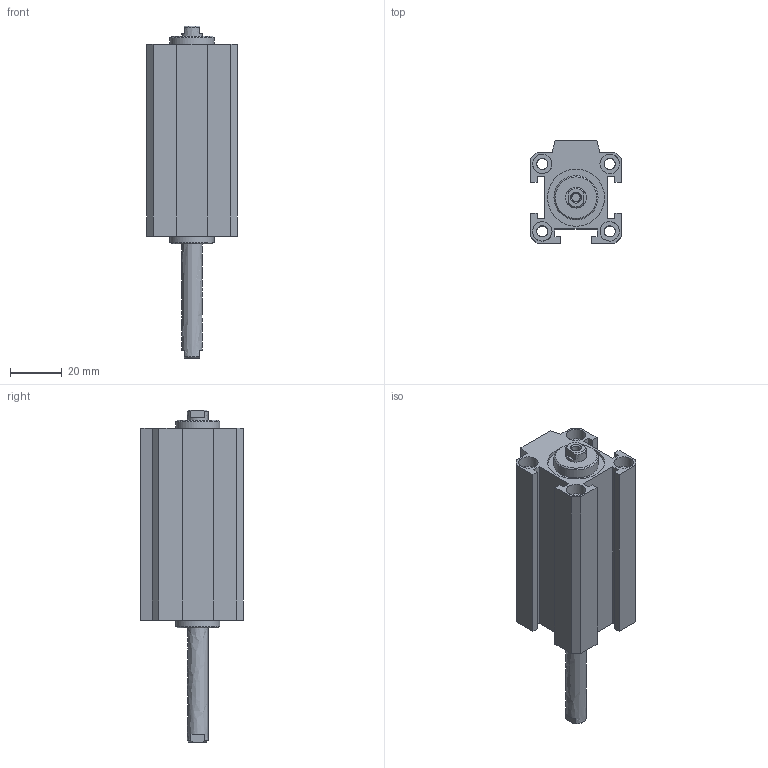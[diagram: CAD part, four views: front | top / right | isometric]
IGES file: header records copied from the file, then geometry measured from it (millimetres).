
Global section: file name: 1514_20_0040; native system: Autodesk Inventor 2014; preprocessor: unknown; author: A. Manieri; date: 20160824.110446; units: millimetre
Bounding box: 35 x 39.5 x 128 mm (x, y, z)
Volume: 62944.3 mm3; surface area: 31489.3 mm2
Topology: 2 solids, 2 shells, 104 faces, 272 edges, 192 vertices
Faces by surface type: bspline 104
